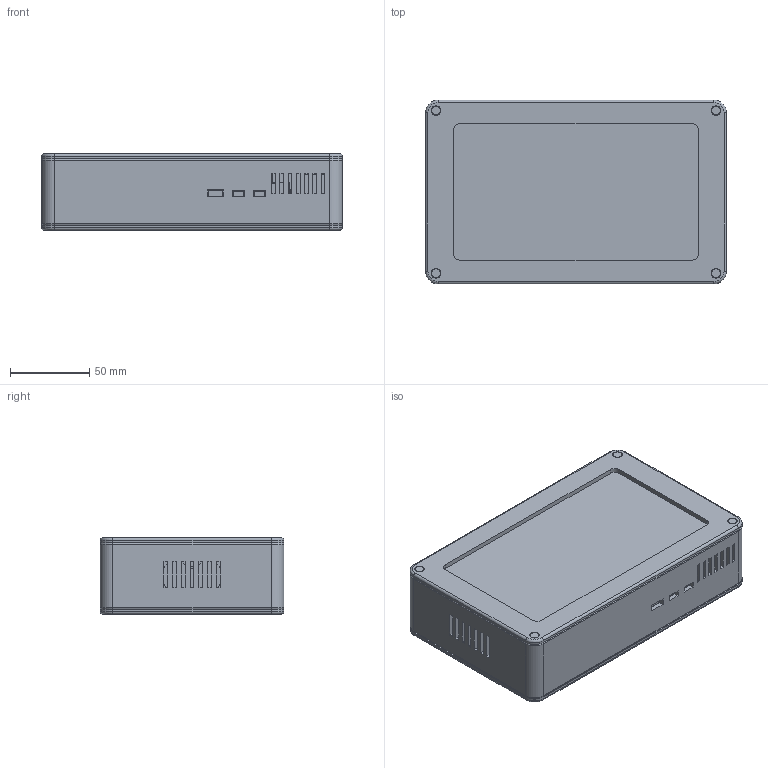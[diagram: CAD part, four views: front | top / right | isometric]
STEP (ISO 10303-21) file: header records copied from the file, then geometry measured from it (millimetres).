
FILE_DESCRIPTION(('Open CASCADE Model'),'2;1');
FILE_NAME('assembly','2026-11-11T15:43:38',('Author'),('Open CASCADE'), 'Open CASCADE STEP processor 8.0','build123d','Unknown');
FILE_SCHEMA(('AUTOMOTIVE_DESIGN { 1 0 10303 214 1 1 1 1 }'));
Length unit declared in the file: millimetre
Products named in the file (17): assembly; housing; cover; bezel; hardware; display; pi; cooler; fan; battery; power_board; standoffs; pi_screws; pw_screws; deck_screws; cover_screws; bezel_screws
Assembly tree (16 placements, depth 3):
  assembly
    housing
    cover
    bezel
    hardware
      display
      pi
      cooler
      fan
      battery
      power_board
      standoffs
      pi_screws
      pw_screws
      deck_screws
      cover_screws
      bezel_screws
Bounding box: 190 x 116 x 48.1 mm (x, y, z)
Volume: 445370.4 mm3; surface area: 262770.9 mm2
Topology: 44 solids, 44 shells, 751 faces, 1775 edges, 1168 vertices
Faces by surface type: plane 540, cylinder 195, torus 16
Full cylindrical faces by diameter (mm): 2.5 x16, 2.6 x16, 2.7 x8, 2.9 x8, 3 x8, 3.4 x8, 4.6 x16, 5 x9, 5.6 x8, 6.1 x8, 18.33 x4, 26.4 x1
Entity records: 44245 total; most frequent: CARTESIAN_POINT 8909, DIRECTION 6098, ORIENTED_EDGE 3550, PCURVE 3550, DEFINITIONAL_REPRESENTATION 3550, LINE 3379, VECTOR 3379, EDGE_CURVE 1775
